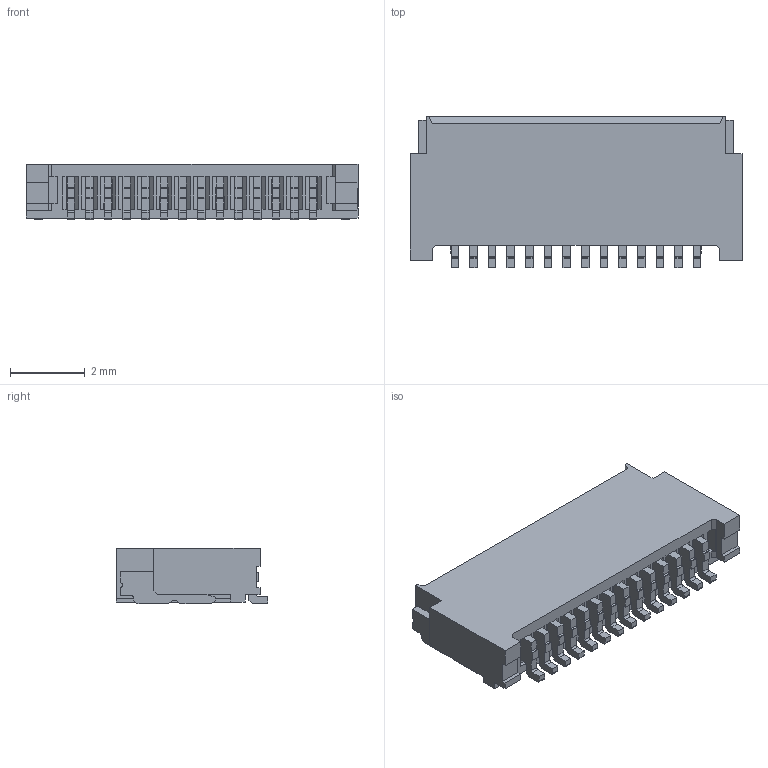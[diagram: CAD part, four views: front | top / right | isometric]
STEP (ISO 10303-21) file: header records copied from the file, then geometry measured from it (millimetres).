
FILE_DESCRIPTION (( 'STEP AP214' ), '1' );
FILE_NAME ('00_6284_014_00X_846_+.STEP', '2019-11-13T02:10:55', ( '' ), ( '' ), 'SwSTEP 2.0', 'SolidWorks 2017', '' );
FILE_SCHEMA (( 'AUTOMOTIVE_DESIGN' ));
Length unit declared in the file: millimetre
Products named in the file (1): 00_6284_014_00X_846_+
Bounding box: 8.9 x 4.05 x 1.5 mm (x, y, z)
Volume: 36 mm3; surface area: 157.9 mm2
Topology: 1 solids, 1 shells, 452 faces, 1252 edges, 816 vertices
Faces by surface type: plane 372, cylinder 80
Entity records: 14294 total; most frequent: CARTESIAN_POINT 2713, ORIENTED_EDGE 2504, DIRECTION 2250, EDGE_CURVE 1252, LINE 1032, VECTOR 1032, VERTEX_POINT 816, AXIS2_PLACEMENT_3D 609
